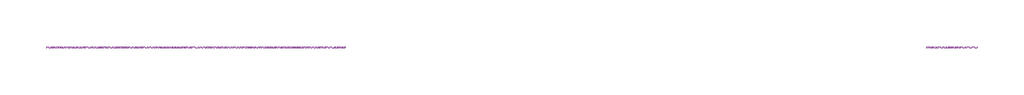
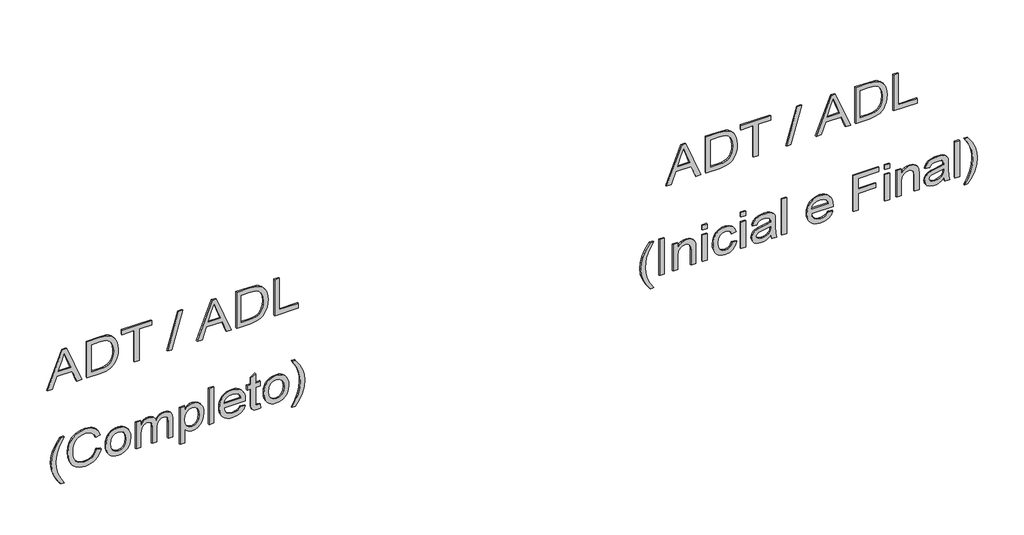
# One storey, part 3 of 5: 2 proxies.
"""IFC4 building model written with IfcOpenShell, lengths in millimetres."""

import ifcopenshell
import ifcopenshell.guid

model = None  # the IFC model being written
_history = None  # IfcOwnerHistory: only IFC2X3 demands one
_inside = {}  # id of a spatial element -> (the spatial element, [elements in it])
_under = {}  # id of a project, library or spatial element -> (it, [spatial elements below it])
_declared = {}  # id of a project -> (the project, [libraries it declares])
_typed = {}  # id of a type object -> (the type object, [elements of that type])
_made_of = {}  # id of a material, layer set ... -> (it, [elements and type objects made of it])


def new_model(schema):
    """Start an empty IFC model of exactly this schema.

    Asked for "IFC4X3", IfcOpenShell would pick the latest addendum, in which some entities
    have other attributes; the version numbers below select the first issue.
    IFC2X3 requires an IfcOwnerHistory on every rooted entity: one is made here for all.
    """
    global model, _history
    if schema == "IFC4X3":
        model = ifcopenshell.file(schema_version=(4, 3, 0, 0))
    else:
        model = ifcopenshell.file(schema=schema)
    _inside.clear()
    _under.clear()
    _declared.clear()
    _typed.clear()
    _made_of.clear()
    _history = None
    if model.schema == "IFC2X3":
        org = make("IfcOrganization", Name="unknown")
        user = make(
            "IfcPersonAndOrganization",
            ThePerson=make("IfcPerson", FamilyName="unknown"),
            TheOrganization=org,
        )
        app = make(
            "IfcApplication",
            ApplicationDeveloper=org,
            Version="unknown",
            ApplicationFullName="unknown",
            ApplicationIdentifier="unknown",
        )
        _history = make(
            "IfcOwnerHistory",
            OwningUser=user,
            OwningApplication=app,
            ChangeAction="ADDED",
            CreationDate=0,
        )
    return model


def make(cls, **values):
    """One entity of the class cls with the attributes given. An attribute that is None is left unset."""
    return model.create_entity(
        cls, **{name: value for name, value in values.items() if value is not None}
    )


def rooted(cls, **values):
    """An entity with a GlobalId (a new one), such as an element, a storey or a relation."""
    return make(cls, GlobalId=ifcopenshell.guid.new(), OwnerHistory=_history, **values)


def si_unit(unit_type, name, prefix=None):
    """IfcSIUnit, for example si_unit("LENGTHUNIT", "METRE", prefix="MILLI")."""
    return make("IfcSIUnit", UnitType=unit_type, Prefix=prefix, Name=name)


def assignment(units):
    """IfcUnitAssignment: the units of a project."""
    return None if units is None else make("IfcUnitAssignment", Units=units)


def point(xyz):
    """IfcCartesianPoint."""
    return None if xyz is None else make("IfcCartesianPoint", Coordinates=xyz)


def direction(xyz):
    """IfcDirection."""
    return None if xyz is None else make("IfcDirection", DirectionRatios=xyz)


def frame(location, z_axis=None, x_axis=None):
    """IfcAxis2Placement3D, a coordinate frame: its origin and axes. An axis left out is left unset."""
    return make(
        "IfcAxis2Placement3D",
        Location=point(location),
        Axis=direction(z_axis),
        RefDirection=direction(x_axis),
    )


def origin():
    """The frame at (0, 0, 0) with its axes left unset."""
    return frame((0.0, 0.0, 0.0))


def place(relative_to, where):
    """IfcLocalPlacement: puts the frame where relative to a parent placement (None: the world)."""
    return make(
        "IfcLocalPlacement", PlacementRelTo=relative_to, RelativePlacement=where
    )


def context(
    kind, dimensions, precision=None, world=None, true_north=None, identifier=None
):
    """IfcGeometricRepresentationContext, for example the 3D "Model" context."""
    return make(
        "IfcGeometricRepresentationContext",
        ContextIdentifier=identifier,
        ContextType=kind,
        CoordinateSpaceDimension=dimensions,
        Precision=precision,
        WorldCoordinateSystem=world,
        TrueNorth=true_north,
    )


def project(units=None, contexts=None):
    """IfcProject with its units and contexts."""
    return rooted(
        "IfcProject",
        Name="project",
        RepresentationContexts=contexts,
        UnitsInContext=assignment(units),
    )


def spatial(cls, under=None, at=None, **own):
    """A site, building, storey or space (cls), placed at a placement, below another one or the project."""
    s = rooted(cls, ObjectPlacement=at, **own)
    if under is not None:
        _under.setdefault(under.id(), (under, []))[1].append(s)
    return s


def polyline(points):
    """IfcPolyline through the points."""
    return make("IfcPolyline", Points=[point(p) for p in points])


def outline(outer, holes=None, kind="AREA"):
    """IfcArbitraryClosedProfileDef: a profile drawn as a closed curve; with holes, ...WithVoids."""
    if holes is None:
        return make("IfcArbitraryClosedProfileDef", ProfileType=kind, OuterCurve=outer)
    return make(
        "IfcArbitraryProfileDefWithVoids",
        ProfileType=kind,
        OuterCurve=outer,
        InnerCurves=holes,
    )


def extrude(swept, where, along, depth):
    """IfcExtrudedAreaSolid: the profile swept, set in the frame where, extruded along a direction by depth."""
    return make(
        "IfcExtrudedAreaSolid",
        SweptArea=swept,
        Position=where,
        ExtrudedDirection=direction(along),
        Depth=depth,
    )


def shape(context_of_items, identifier, shape_type, items):
    """IfcShapeRepresentation: the items that make up one representation, for example the "Body"."""
    return make(
        "IfcShapeRepresentation",
        ContextOfItems=context_of_items,
        RepresentationIdentifier=identifier,
        RepresentationType=shape_type,
        Items=items,
    )


def made_of(thing, what):
    """Note that an element or type object is made of a material, layer set ...; save() writes the relation."""
    if what is not None:
        _made_of.setdefault(what.id(), (what, []))[1].append(thing)
    return thing


def element(
    cls,
    number,
    at=None,
    inside=None,
    cuts=None,
    type_object=None,
    material=None,
    context=None,
    identifier="Body",
    shape_type=None,
    held_by="IfcProductDefinitionShape",
    body=None,
    shapes=None,
    **own,
):
    """One element of the class cls, such as IfcWall. Its Tag is "e" and its number.

    at: its placement. inside: the storey or other place that contains it. cuts: it is an
    opening in that element (IfcRelVoidsElement). A single representation is given by context,
    identifier, shape_type and body (its items); several are given by shapes. held_by: the class
    of the entity that holds the representations. save() writes the other relations.
    """
    e = rooted(cls, Tag="e%d" % number, ObjectPlacement=at, **own)
    if body is not None:
        shapes = [shape(context, identifier, shape_type, body)]
    if shapes is not None:
        e.Representation = make(held_by, Representations=shapes)
    if inside is not None:
        _inside.setdefault(inside.id(), (inside, []))[1].append(e)
    if cuts is not None:
        rooted(
            "IfcRelVoidsElement", RelatingBuildingElement=cuts, RelatedOpeningElement=e
        )
    if type_object is not None:
        _typed.setdefault(type_object.id(), (type_object, []))[1].append(e)
    return made_of(e, material)


def aggregate(whole, parts):
    """IfcRelAggregates: a whole, such as a stair, and the parts it consists of."""
    return rooted("IfcRelAggregates", RelatingObject=whole, RelatedObjects=parts)


def save(model, path):
    """Write the relations noted so far, then the file.

    IfcRelAggregates (storeys below a building ...), IfcRelContainedInSpatialStructure (elements
    in a storey), IfcRelDefinesByType, IfcRelAssociatesMaterial and IfcRelDeclares: one each for
    every whole, place, type object, material and project.
    """
    for whole, parts in _under.values():
        aggregate(whole, parts)
    for where, things in _inside.values():
        rooted(
            "IfcRelContainedInSpatialStructure",
            RelatedElements=things,
            RelatingStructure=where,
        )
    for kind, things in _typed.values():
        rooted("IfcRelDefinesByType", RelatedObjects=things, RelatingType=kind)
    for what, things in _made_of.values():
        rooted("IfcRelAssociatesMaterial", RelatedObjects=things, RelatingMaterial=what)
    for by, libraries in _declared.values():
        rooted("IfcRelDeclares", RelatingContext=by, RelatedDefinitions=libraries)
    model.write(path)


model = new_model("IFC4")

# Units and contexts
model_context = context("Model", 3, world=origin())
ifc_project = project(units=[si_unit("LENGTHUNIT", "METRE", prefix="MILLI")], contexts=[model_context])

# Site, building, storey
site = spatial("IfcSite", under=ifc_project)
building = spatial("IfcBuilding", under=site)
storey = spatial("IfcBuildingStorey", under=building, Name="03 - Marelli - Planta Baixa - Painéis Mistos", Elevation=24000.0)

# Proxies
placement = place(None, origin())
element("IfcBuildingElementProxy", 1, Name="300mm Arial", ObjectType="300mm Arial", at=placement, inside=storey, context=model_context, shape_type="SweptSolid", body=[
    extrude(outline(polyline([(30065.9244535, 12839.2832057), (30065.9244535, 12879.0880376), (30160.1022443, 12913.5217923), (30160.1022443, 13037.6451775), (30065.9244535, 13072.1525086), (30065.9244535, 13111.9573405), (30367.293384, 12991.6599281), (30367.293384, 12959.5806181), (30065.9244535, 12839.2832057)]), holes=[polyline([(30197.7733606, 12927.3541553), (30278.3395176, 12956.8582914), (30329.6222677, 12975.6202731), (30271.8647944, 12996.7366996), (30197.7733606, 13023.8863909), (30197.7733606, 12927.3541553)])]), frame((0.0, 8778.3159498, 0.0), z_axis=(0.0, 1.0, 0.0), x_axis=(0.0, 0.0, 1.0)), (0.0, 0.0, 1.0), 10.0),
    extrude(outline(polyline([(30065.9244535, 13152.2036308), (30065.9244535, 13261.1702778), (30071.0748015, 13309.6203365), (30077.4299629, 13329.1640675), (30086.1947515, 13345.6359839), (30098.0129606, 13359.9833817), (30113.5283837, 13373.1535571), (30133.1824793, 13384.5946872), (30157.4167057, 13393.7549488), (30185.8815751, 13399.7698195), (30218.2275995, 13401.7747763), (30256.303386, 13398.8133263), (30289.8910122, 13389.9289761), (30318.438655, 13375.0849376), (30341.3944915, 13354.2444225), (30354.5830611, 13333.9741246), (30362.9523764, 13309.9514303), (30367.293384, 13256.1670826), (30367.293384, 13152.2036308), (30065.9244535, 13152.2036308)]), holes=[polyline([(30103.5955698, 13189.8747471), (30329.6222677, 13189.8747471), (30329.6222677, 13255.504895), (30328.1139515, 13287.2531112), (30323.589003, 13308.9213607), (30311.0074387, 13330.2125312), (30290.1853178, 13348.0272168), (30259.8718414, 13360.0845492), (30218.8162107, 13364.10366), (30187.8313497, 13362.0527179), (30161.8312897, 13355.8998915), (30140.7240602, 13346.0682452), (30124.4176908, 13332.9808432), (30115.606917, 13320.8039492), (30109.0402234, 13305.0218116), (30104.9567332, 13284.1077202), (30103.5955698, 13256.5349646), (30103.5955698, 13189.8747471)])]), frame((0.0, 8778.3159498, 0.0), z_axis=(0.0, 1.0, 0.0), x_axis=(0.0, 0.0, 1.0)), (0.0, 0.0, 1.0), 10.0),
    extrude(outline(polyline([(30065.9244535, 13528.9147939), (30065.9244535, 13566.5859102), (30329.6222677, 13566.5859102), (30329.6222677, 13665.4725905), (30367.293384, 13665.4725905), (30367.293384, 13430.0281136), (30329.6222677, 13430.0281136), (30329.6222677, 13528.9147939), (30065.9244535, 13528.9147939)])), frame((0.0, 8778.3159498, 0.0), z_axis=(0.0, 1.0, 0.0), x_axis=(0.0, 0.0, 1.0)), (0.0, 0.0, 1.0), 10.0),
    extrude(outline(polyline([(30065.9244535, 13792.612608), (30065.9244535, 13826.6049044), (30367.293384, 13911.364916), (30367.293384, 13877.3726197), (30065.9244535, 13792.612608)])), frame((0.0, 8778.3159498, 0.0), z_axis=(0.0, 1.0, 0.0), x_axis=(0.0, 0.0, 1.0)), (0.0, 0.0, 1.0), 10.0),
    extrude(outline(polyline([(30065.9244535, 14025.9233693), (30065.9244535, 14065.7282012), (30160.1022443, 14100.161956), (30160.1022443, 14224.2853411), (30065.9244535, 14258.7926723), (30065.9244535, 14298.5975042), (30367.293384, 14178.3000917), (30367.293384, 14146.2207818), (30065.9244535, 14025.9233693)]), holes=[polyline([(30197.7733606, 14113.994319), (30278.3395176, 14143.498455), (30329.6222677, 14162.2604368), (30271.8647944, 14183.3768633), (30197.7733606, 14210.5265545), (30197.7733606, 14113.994319)])]), frame((0.0, 8778.3159498, 0.0), z_axis=(0.0, 1.0, 0.0), x_axis=(0.0, 0.0, 1.0)), (0.0, 0.0, 1.0), 10.0),
    extrude(outline(polyline([(30065.9244535, 14338.8437944), (30065.9244535, 14447.8104414), (30071.0748015, 14496.2605002), (30077.4299629, 14515.8042312), (30086.1947515, 14532.2761475), (30098.0129606, 14546.6235453), (30113.5283837, 14559.7937207), (30133.1824793, 14571.2348508), (30157.4167057, 14580.3951125), (30185.8815751, 14586.4099831), (30218.2275995, 14588.41494), (30256.303386, 14585.4534899), (30289.8910122, 14576.5691397), (30318.438655, 14561.7251012), (30341.3944915, 14540.8845862), (30354.5830611, 14520.6142883), (30362.9523764, 14496.591594), (30367.293384, 14442.8072463), (30367.293384, 14338.8437944), (30065.9244535, 14338.8437944)]), holes=[polyline([(30103.5955698, 14376.5149107), (30329.6222677, 14376.5149107), (30329.6222677, 14442.1450587), (30328.1139515, 14473.8932749), (30323.589003, 14495.5615244), (30311.0074387, 14516.8526949), (30290.1853178, 14534.6673805), (30259.8718414, 14546.7247129), (30218.8162107, 14550.7438237), (30187.8313497, 14548.6928815), (30161.8312897, 14542.5400552), (30140.7240602, 14532.7084088), (30124.4176908, 14519.6210069), (30115.606917, 14507.4441128), (30109.0402234, 14491.6619752), (30104.9567332, 14470.7478838), (30103.5955698, 14443.1751283), (30103.5955698, 14376.5149107)])]), frame((0.0, 8778.3159498, 0.0), z_axis=(0.0, 1.0, 0.0), x_axis=(0.0, 0.0, 1.0)), (0.0, 0.0, 1.0), 10.0),
    extrude(outline(polyline([(30065.9244535, 14640.2127249), (30065.9244535, 14828.5683064), (30103.5955698, 14828.5683064), (30103.5955698, 14677.8838412), (30367.293384, 14677.8838412), (30367.293384, 14640.2127249), (30065.9244535, 14640.2127249)])), frame((0.0, 8778.3159498, 0.0), z_axis=(0.0, 1.0, 0.0), x_axis=(0.0, 0.0, 1.0)), (0.0, 0.0, 1.0), 10.0),
    extrude(outline(polyline([(29249.3155348, 12945.0124911), (29249.3155348, 12973.2658283), (29297.5540614, 12944.4238799), (29345.8109821, 12923.8224882), (29394.0862969, 12911.4616532), (29442.3800058, 12907.3413748), (29480.2534572, 12909.7142137), (29517.9429677, 12916.8327303), (29575.7740173, 12938.0227332), (29635.4444769, 12973.2658283), (29635.4444769, 12945.0124911), (29584.934279, 12910.321219), (29534.2033518, 12886.0042191), (29489.4137189, 12873.7537486), (29442.600735, 12869.6702585), (29389.2210575, 12875.1333061), (29337.68079, 12891.522449), (29290.2791949, 12915.8210548), (29249.3155348, 12945.0124911)])), frame((0.0, 8778.3159498, 0.0), z_axis=(0.0, 1.0, 0.0), x_axis=(0.0, 0.0, 1.0)), (0.0, 0.0, 1.0), 10.0),
    extrude(outline(polyline([(29441.2027835, 13227.5458634), (29408.9395325, 13215.3597723), (29385.7261786, 13195.576918), (29371.7098746, 13169.3745229), (29367.0377732, 13137.9298094), (29370.4682728, 13110.9548621), (29380.7597717, 13085.9480835), (29397.9858461, 13065.0891743), (29422.2200725, 13050.5578355), (29452.3128197, 13042.0321703), (29487.1144565, 13039.1902819), (29515.5333406, 13041.5907119), (29543.1060961, 13048.792002), (29567.4966724, 13061.9161921), (29586.3690188, 13082.0853225), (29598.4539423, 13108.6647967), (29602.4822501, 13141.0200181), (29598.8494154, 13169.0894144), (29587.9509113, 13191.9348863), (29569.1061561, 13209.777163), (29541.6345681, 13222.8369739), (29550.6108888, 13260.5080902), (29588.4291579, 13243.8706269), (29603.751443, 13232.0685127), (29616.6824952, 13217.9441433), (29626.9510013, 13201.7642333), (29634.2856486, 13183.7954971), (29640.1533665, 13142.4915461), (29635.6192209, 13104.6364888), (29622.0167841, 13070.0923695), (29599.6771499, 13040.9653125), (29568.9314122, 13019.3614423), (29530.9843844, 13005.9797348), (29487.0408801, 13001.5191656), (29445.3782441, 13005.4647), (29406.4747231, 13017.3013032), (29373.3837376, 13036.6886843), (29349.1587083, 13063.2865526), (29334.3146698, 13097.9870218), (29329.3666569, 13141.6822057), (29331.0014325, 13164.1046133), (29335.9057594, 13184.7243992), (29344.0796375, 13203.5415632), (29355.5230668, 13220.5561055), (29370.0796975, 13235.4323337), (29387.5931797, 13247.8345554), (29408.0635135, 13257.7627708), (29431.4906988, 13265.2169797), (29441.2027835, 13227.5458634)])), frame((0.0, 8778.3159498, 0.0), z_axis=(0.0, 1.0, 0.0), x_axis=(0.0, 0.0, 1.0)), (0.0, 0.0, 1.0), 10.0),
    extrude(outline(polyline([(29444.7344506, 13302.888096), (29418.4124939, 13304.596448), (29395.3646869, 13309.7215041), (29375.5910296, 13318.2632642), (29359.0915221, 13330.2217283), (29346.0868936, 13344.9485044), (29336.7978732, 13361.7952005), (29331.224461, 13380.7618166), (29329.3666569, 13401.8483527), (29332.7419742, 13428.4370239), (29342.8679261, 13452.8735855), (29359.1007192, 13473.447386), (29380.7965599, 13488.4477744), (29409.767267, 13497.6080361), (29447.8246594, 13500.6614566), (29472.7049786, 13498.9347105), (29494.7388108, 13493.7544722), (29513.9261561, 13485.1207416), (29530.2670145, 13473.0335188), (29543.3199275, 13458.2239692), (29552.6434368, 13441.4232584), (29558.2375424, 13422.6313862), (29560.1022443, 13401.8483527), (29558.5709355, 13383.0219916), (29553.9770091, 13365.6855526), (29546.3204651, 13349.8390357), (29535.6013034, 13335.4824408), (29518.830483, 13321.222415), (29498.095734, 13311.0366822), (29473.3970566, 13304.9252426), (29444.7344506, 13302.888096)]), holes=[polyline([(29444.808027, 13340.5592123), (29478.8830968, 13344.918614), (29503.1173232, 13357.9968189), (29517.6026768, 13377.6785056), (29522.431128, 13401.8483527), (29517.5842827, 13425.7698795), (29503.0437468, 13445.4423692), (29479.0854319, 13458.6033475), (29445.9852494, 13462.9903403), (29411.1468245, 13458.6309387), (29386.535519, 13445.5527338), (29371.9122097, 13425.9078352), (29367.0377732, 13401.8483527), (29371.8846185, 13377.6785056), (29386.4251544, 13357.9968189), (29410.7145631, 13344.918614), (29444.808027, 13340.5592123)])]), frame((0.0, 8778.3159498, 0.0), z_axis=(0.0, 1.0, 0.0), x_axis=(0.0, 0.0, 1.0)), (0.0, 0.0, 1.0), 10.0),
    extrude(outline(polyline([(29334.0755465, 13543.0414625), (29334.0755465, 13580.7125788), (29445.6909438, 13580.7125788), (29471.6082304, 13582.1473186), (29490.6461236, 13586.4515379), (29504.368122, 13593.9563306), (29514.3377241, 13604.9927905), (29520.407777, 13618.365301), (29522.431128, 13632.8782457), (29519.3961015, 13649.9571673), (29510.2910222, 13661.4626767), (29495.0974958, 13668.0017792), (29473.7971282, 13670.18148), (29334.0755465, 13670.18148), (29334.0755465, 13707.8525963), (29459.008272, 13707.8525963), (29487.7214617, 13711.5406133), (29507.3479662, 13722.6046643), (29518.6603375, 13739.2421276), (29522.431128, 13759.6503812), (29520.9596, 13771.2110729), (29516.5450161, 13781.171478), (29509.7300021, 13788.915394), (29501.0571841, 13793.8266186), (29469.6032735, 13797.3214975), (29334.0755465, 13797.3214975), (29334.0755465, 13834.9926138), (29485.7900813, 13834.9926138), (29518.7615051, 13830.6791975), (29541.8920855, 13817.7389483), (29555.5497046, 13796.7972657), (29560.1022443, 13768.4795491), (29557.366122, 13748.9542122), (29549.1577549, 13731.3602558), (29535.4771432, 13715.6976799), (29516.3242869, 13701.9664844), (29534.7643719, 13693.7627159), (29548.5875379, 13681.2179399), (29557.2235677, 13664.4241268), (29560.1022443, 13643.4732472), (29557.27875, 13623.9203191), (29548.808267, 13606.6114712), (29535.702471, 13592.0433442), (29518.9730372, 13580.7125788), (29555.3933548, 13580.7125788), (29555.3933548, 13543.0414625), (29334.0755465, 13543.0414625)])), frame((0.0, 8778.3159498, 0.0), z_axis=(0.0, 1.0, 0.0), x_axis=(0.0, 0.0, 1.0)), (0.0, 0.0, 1.0), 10.0),
    extrude(outline(polyline([(29249.3155348, 13891.4992883), (29249.3155348, 13929.1704046), (29363.5061061, 13929.1704046), (29349.9956398, 13939.8113913), (29339.0419534, 13953.0459461), (29331.785481, 13968.5061869), (29329.3666569, 13985.8242319), (29332.9810975, 14010.2423993), (29343.8244193, 14033.4649502), (29361.4459669, 14053.4041544), (29385.3950848, 14067.9722814), (29414.2094421, 14076.8842227), (29446.4267078, 14079.8548698), (29476.7217901, 14077.2245136), (29504.4784866, 14069.3334448), (29527.9861461, 14056.2736339), (29545.5341173, 14038.1370516), (29556.4602125, 14015.8617968), (29560.1022443, 13990.3859686), (29557.4994792, 13971.2561049), (29549.6911838, 13955.2164499), (29536.6773583, 13941.4576633), (29518.4580024, 13929.1704046), (29555.3933548, 13929.1704046), (29555.3933548, 13891.4992883), (29249.3155348, 13891.4992883)]), holes=[polyline([(29442.968617, 13929.1704046), (29477.1356573, 13933.5206092), (29502.0872537, 13946.571223), (29517.3451594, 13965.2688254), (29522.431128, 13986.5599959), (29517.6486621, 14007.7683929), (29503.3012642, 14025.7762165), (29479.3521464, 14038.0818693), (29445.7645202, 14042.1837535), (29410.7237602, 14037.9807017), (29386.2412134, 14025.3715464), (29371.8386333, 14006.876279), (29367.0377732, 13985.0148915), (29371.6730864, 13963.5029918), (29385.5790258, 13945.467577), (29409.1970499, 13933.2446977), (29442.968617, 13929.1704046)])]), frame((0.0, 8778.3159498, 0.0), z_axis=(0.0, 1.0, 0.0), x_axis=(0.0, 0.0, 1.0)), (0.0, 0.0, 1.0), 10.0),
    extrude(outline(polyline([(14159.905992, 8778.3159498), (14122.2348757, 8778.3159498), (14122.2348757, 8788.3159498), (14159.905992, 8788.3159498), (14159.905992, 8778.3159498)])), frame((0.0, 0.0, 29334.0755465), z_axis=(0.0, 0.0, 1.0), x_axis=(1.0, 0.0, 0.0)), (0.0, 0.0, 1.0), 301.3689304),
    extrude(outline(polyline([(29400.0, 14371.3645628), (29385.1191733, 14360.8063496), (29374.9104479, 14347.0843511), (29369.0059419, 14330.1985676), (29367.0377732, 14310.1489988), (29371.2868103, 14283.4867512), (29384.0339214, 14261.6253637), (29404.7640718, 14246.4778225), (29432.9622268, 14239.9571141), (29432.9622268, 14409.2564083), (29443.1157698, 14409.4771375), (29469.3687487, 14407.6906106), (29492.5039277, 14402.3310298), (29512.5213067, 14393.3983951), (29529.4208859, 14380.8927065), (29542.8439802, 14365.5727207), (29552.4319047, 14348.1971942), (29558.1846594, 14328.766127), (29560.1022443, 14307.2795193), (29558.1800609, 14285.0778408), (29552.4135106, 14265.0466662), (29542.8025935, 14247.1859953), (29529.3473095, 14231.4958282), (29512.4109422, 14218.7165274), (29492.3567749, 14209.5884554), (29469.1848077, 14204.1116122), (29442.8950406, 14202.2859978), (29417.467497, 14204.0932181), (29395.0427901, 14209.514879), (29375.62092, 14218.5509805), (29359.2018867, 14231.2015227), (29346.1489737, 14246.9330765), (29336.8254644, 14265.2122131), (29331.2313588, 14286.0389326), (29329.3666569, 14309.4132348), (29333.6892704, 14345.0701972), (29346.6571107, 14373.7557958), (29367.4608375, 14394.991784), (29395.2911105, 14408.2999151), (29400.0, 14371.3645628)]), holes=[polyline([(29470.6333431, 14239.9571141), (29491.8693312, 14246.1467287), (29508.3412476, 14260.7424469), (29518.9086579, 14281.7393117), (29522.431128, 14307.1323665), (29518.0165441, 14334.7603043), (29504.7727922, 14356.7228594), (29490.535759, 14366.7108556), (29470.6333431, 14371.8060212), (29470.6333431, 14239.9571141)])]), frame((0.0, 8778.3159498, 0.0), z_axis=(0.0, 1.0, 0.0), x_axis=(0.0, 0.0, 1.0)), (0.0, 0.0, 1.0), 10.0),
    extrude(outline(polyline([(29365.4926689, 14527.199376), (29367.0377732, 14510.791839), (29369.576159, 14497.9527574), (29376.4555523, 14491.5148224), (29395.8797217, 14489.5282597), (29517.7222385, 14489.5282597), (29517.7222385, 14527.199376), (29555.3933548, 14527.199376), (29555.3933548, 14489.5282597), (29631.3241986, 14489.5282597), (29609.1777025, 14451.8571434), (29555.3933548, 14451.8571434), (29555.3933548, 14423.6038061), (29517.7222385, 14423.6038061), (29517.7222385, 14451.8571434), (29394.7760757, 14451.8571434), (29367.7919313, 14452.9975775), (29352.0281878, 14456.4188801), (29342.849532, 14462.6360858), (29335.6206508, 14472.1642295), (29330.9301554, 14485.6471046), (29329.3666569, 14503.7285047), (29332.9719005, 14531.9082655), (29365.4926689, 14527.199376)])), frame((0.0, 8778.3159498, 0.0), z_axis=(0.0, 1.0, 0.0), x_axis=(0.0, 0.0, 1.0)), (0.0, 0.0, 1.0), 10.0),
    extrude(outline(polyline([(29444.7344506, 14555.4527132), (29418.4124939, 14557.1610652), (29395.3646869, 14562.2861213), (29375.5910296, 14570.8278813), (29359.0915221, 14582.7863454), (29346.0868936, 14597.5131216), (29336.7978732, 14614.3598177), (29331.224461, 14633.3264338), (29329.3666569, 14654.4129699), (29332.7419742, 14681.0016411), (29342.8679261, 14705.4382026), (29359.1007192, 14726.0120032), (29380.7965599, 14741.0123916), (29409.767267, 14750.1726532), (29447.8246594, 14753.2260738), (29472.7049786, 14751.4993277), (29494.7388108, 14746.3190893), (29513.9261561, 14737.6853588), (29530.2670145, 14725.598136), (29543.3199275, 14710.7885864), (29552.6434368, 14693.9878755), (29558.2375424, 14675.1960034), (29560.1022443, 14654.4129699), (29558.5709355, 14635.5866088), (29553.9770091, 14618.2501698), (29546.3204651, 14602.4036528), (29535.6013034, 14588.047058), (29518.830483, 14573.7870321), (29498.095734, 14563.6012994), (29473.3970566, 14557.4898597), (29444.7344506, 14555.4527132)]), holes=[polyline([(29444.808027, 14593.1238295), (29478.8830968, 14597.4832312), (29503.1173232, 14610.5614361), (29517.6026768, 14630.2431228), (29522.431128, 14654.4129699), (29517.5842827, 14678.3344966), (29503.0437468, 14698.0069863), (29479.0854319, 14711.1679647), (29445.9852494, 14715.5549575), (29411.1468245, 14711.1955559), (29386.535519, 14698.1173509), (29371.9122097, 14678.4724524), (29367.0377732, 14654.4129699), (29371.8846185, 14630.2431228), (29386.4251544, 14610.5614361), (29410.7145631, 14597.4832312), (29444.808027, 14593.1238295)])]), frame((0.0, 8778.3159498, 0.0), z_axis=(0.0, 1.0, 0.0), x_axis=(0.0, 0.0, 1.0)), (0.0, 0.0, 1.0), 10.0),
    extrude(outline(polyline([(29249.3155348, 14805.0238587), (29290.2791949, 14834.0773393), (29337.68079, 14858.4035362), (29389.2210575, 14874.8754526), (29442.600735, 14880.3660913), (29489.4137189, 14876.2826012), (29534.2033518, 14864.0321308), (29584.934279, 14839.7151309), (29635.4444769, 14805.0238587), (29635.4444769, 14776.7705215), (29575.1854061, 14812.2343458), (29546.8400984, 14824.2089048), (29517.2807801, 14833.2036196), (29479.9775458, 14840.3221362), (29442.3800058, 14842.694975), (29394.0862969, 14838.5746967), (29345.8109821, 14826.2138617), (29297.5540614, 14805.6124699), (29249.3155348, 14776.7705215), (29249.3155348, 14805.0238587)])), frame((0.0, 8778.3159498, 0.0), z_axis=(0.0, 1.0, 0.0), x_axis=(0.0, 0.0, 1.0)), (0.0, 0.0, 1.0), 10.0),
])
element("IfcBuildingElementProxy", 2, Name="300mm Arial", ObjectType="300mm Arial", at=placement, inside=storey, context=model_context, shape_type="SweptSolid", body=[
    extrude(outline(polyline([(30065.9244535, 17745.1054149), (30065.9244535, 17784.9102468), (30160.1022443, 17819.3440016), (30160.1022443, 17943.4673867), (30065.9244535, 17977.9747179), (30065.9244535, 18017.7795498), (30367.293384, 17897.4821373), (30367.293384, 17865.4028274), (30065.9244535, 17745.1054149)]), holes=[polyline([(30197.7733606, 17833.1763646), (30278.3395176, 17862.6805006), (30329.6222677, 17881.4424823), (30271.8647944, 17902.5589089), (30197.7733606, 17929.7086001), (30197.7733606, 17833.1763646)])]), frame((0.0, 8778.3159498, 0.0), z_axis=(0.0, 1.0, 0.0), x_axis=(0.0, 0.0, 1.0)), (0.0, 0.0, 1.0), 10.0),
    extrude(outline(polyline([(30065.9244535, 18058.02584), (30065.9244535, 18166.992487), (30071.0748015, 18215.4425458), (30077.4299629, 18234.9862768), (30086.1947515, 18251.4581931), (30098.0129606, 18265.8055909), (30113.5283837, 18278.9757663), (30133.1824793, 18290.4168964), (30157.4167057, 18299.5771581), (30185.8815751, 18305.5920287), (30218.2275995, 18307.5969856), (30256.303386, 18304.6355355), (30289.8910122, 18295.7511853), (30318.438655, 18280.9071468), (30341.3944915, 18260.0666318), (30354.5830611, 18239.7963339), (30362.9523764, 18215.7736396), (30367.293384, 18161.9892919), (30367.293384, 18058.02584), (30065.9244535, 18058.02584)]), holes=[polyline([(30103.5955698, 18095.6969563), (30329.6222677, 18095.6969563), (30329.6222677, 18161.3271043), (30328.1139515, 18193.0753205), (30323.589003, 18214.74357), (30311.0074387, 18236.0347404), (30290.1853178, 18253.8494261), (30259.8718414, 18265.9067585), (30218.8162107, 18269.9258693), (30187.8313497, 18267.8749271), (30161.8312897, 18261.7221008), (30140.7240602, 18251.8904544), (30124.4176908, 18238.8030525), (30115.606917, 18226.6261584), (30109.0402234, 18210.8440208), (30104.9567332, 18189.9299294), (30103.5955698, 18162.3571739), (30103.5955698, 18095.6969563)])]), frame((0.0, 8778.3159498, 0.0), z_axis=(0.0, 1.0, 0.0), x_axis=(0.0, 0.0, 1.0)), (0.0, 0.0, 1.0), 10.0),
    extrude(outline(polyline([(30065.9244535, 18434.7370031), (30065.9244535, 18472.4081194), (30329.6222677, 18472.4081194), (30329.6222677, 18571.2947997), (30367.293384, 18571.2947997), (30367.293384, 18335.8503228), (30329.6222677, 18335.8503228), (30329.6222677, 18434.7370031), (30065.9244535, 18434.7370031)])), frame((0.0, 8778.3159498, 0.0), z_axis=(0.0, 1.0, 0.0), x_axis=(0.0, 0.0, 1.0)), (0.0, 0.0, 1.0), 10.0),
    extrude(outline(polyline([(30065.9244535, 18698.4348172), (30065.9244535, 18732.4271136), (30367.293384, 18817.1871253), (30367.293384, 18783.1948289), (30065.9244535, 18698.4348172)])), frame((0.0, 8778.3159498, 0.0), z_axis=(0.0, 1.0, 0.0), x_axis=(0.0, 0.0, 1.0)), (0.0, 0.0, 1.0), 10.0),
    extrude(outline(polyline([(30065.9244535, 18931.7455786), (30065.9244535, 18971.5504105), (30160.1022443, 19005.9841652), (30160.1022443, 19130.1075504), (30065.9244535, 19164.6148815), (30065.9244535, 19204.4197134), (30367.293384, 19084.122301), (30367.293384, 19052.042991), (30065.9244535, 18931.7455786)]), holes=[polyline([(30197.7733606, 19019.8165282), (30278.3395176, 19049.3206642), (30329.6222677, 19068.082646), (30271.8647944, 19089.1990725), (30197.7733606, 19116.3487638), (30197.7733606, 19019.8165282)])]), frame((0.0, 8778.3159498, 0.0), z_axis=(0.0, 1.0, 0.0), x_axis=(0.0, 0.0, 1.0)), (0.0, 0.0, 1.0), 10.0),
    extrude(outline(polyline([(30065.9244535, 19244.6660037), (30065.9244535, 19353.6326506), (30071.0748015, 19402.0827094), (30077.4299629, 19421.6264404), (30086.1947515, 19438.0983567), (30098.0129606, 19452.4457546), (30113.5283837, 19465.61593), (30133.1824793, 19477.05706), (30157.4167057, 19486.2173217), (30185.8815751, 19492.2321923), (30218.2275995, 19494.2371492), (30256.303386, 19491.2756991), (30289.8910122, 19482.391349), (30318.438655, 19467.5473105), (30341.3944915, 19446.7067954), (30354.5830611, 19426.4364975), (30362.9523764, 19402.4138032), (30367.293384, 19348.6294555), (30367.293384, 19244.6660037), (30065.9244535, 19244.6660037)]), holes=[polyline([(30103.5955698, 19282.33712), (30329.6222677, 19282.33712), (30329.6222677, 19347.9672679), (30328.1139515, 19379.7154841), (30323.589003, 19401.3837336), (30311.0074387, 19422.6749041), (30290.1853178, 19440.4895897), (30259.8718414, 19452.5469221), (30218.8162107, 19456.5660329), (30187.8313497, 19454.5150908), (30161.8312897, 19448.3622644), (30140.7240602, 19438.5306181), (30124.4176908, 19425.4432161), (30115.606917, 19413.2663221), (30109.0402234, 19397.4841845), (30104.9567332, 19376.570093), (30103.5955698, 19348.9973375), (30103.5955698, 19282.33712)])]), frame((0.0, 8778.3159498, 0.0), z_axis=(0.0, 1.0, 0.0), x_axis=(0.0, 0.0, 1.0)), (0.0, 0.0, 1.0), 10.0),
    extrude(outline(polyline([(30065.9244535, 19546.0349341), (30065.9244535, 19734.3905157), (30103.5955698, 19734.3905157), (30103.5955698, 19583.7060504), (30367.293384, 19583.7060504), (30367.293384, 19546.0349341), (30065.9244535, 19546.0349341)])), frame((0.0, 8778.3159498, 0.0), z_axis=(0.0, 1.0, 0.0), x_axis=(0.0, 0.0, 1.0)), (0.0, 0.0, 1.0), 10.0),
    extrude(outline(polyline([(29249.3155348, 17615.3902234), (29249.3155348, 17643.6435607), (29297.5540614, 17614.8016122), (29345.8109821, 17594.2002205), (29394.0862969, 17581.8393855), (29442.3800058, 17577.7191071), (29480.2534572, 17580.091946), (29517.9429677, 17587.2104626), (29575.7740173, 17608.4004655), (29635.4444769, 17643.6435607), (29635.4444769, 17615.3902234), (29584.934279, 17580.6989513), (29534.2033518, 17556.3819514), (29489.4137189, 17544.131481), (29442.600735, 17540.0479908), (29389.2210575, 17545.5110385), (29337.68079, 17561.9001813), (29290.2791949, 17586.1987871), (29249.3155348, 17615.3902234)])), frame((0.0, 8778.3159498, 0.0), z_axis=(0.0, 1.0, 0.0), x_axis=(0.0, 0.0, 1.0)), (0.0, 0.0, 1.0), 10.0),
    extrude(outline(polyline([(17728.4035724, 8778.3159498), (17690.732456, 8778.3159498), (17690.732456, 8788.3159498), (17728.4035724, 8788.3159498), (17728.4035724, 8778.3159498)])), frame((0.0, 0.0, 29334.0755465), z_axis=(0.0, 0.0, 1.0), x_axis=(1.0, 0.0, 0.0)), (0.0, 0.0, 1.0), 301.3689304),
    extrude(outline(polyline([(29334.0755465, 17799.0369154), (29334.0755465, 17836.7080317), (29451.5034793, 17836.7080317), (29486.2131456, 17841.003054), (29498.5877762, 17846.3718319), (29507.6422718, 17853.8881209), (29518.7339139, 17872.6960879), (29522.431128, 17894.7598106), (29520.7848561, 17908.6565529), (29515.8460403, 17920.6219148), (29508.1481095, 17929.9569205), (29498.2244927, 17935.962594), (29464.8943839, 17940.3036016), (29334.0755465, 17940.3036016), (29334.0755465, 17977.9747179), (29469.9711555, 17977.9747179), (29506.391473, 17975.9881551), (29534.0929872, 17964.6941779), (29544.6328064, 17954.5958171), (29552.9285454, 17940.4139662), (29558.3088196, 17923.4086209), (29560.1022443, 17904.8397772), (29557.8765582, 17883.8613065), (29551.1995, 17865.513192), (29540.0710697, 17849.7954337), (29524.4912672, 17836.7080317), (29555.3933548, 17836.7080317), (29555.3933548, 17799.0369154), (29334.0755465, 17799.0369154)])), frame((0.0, 8778.3159498, 0.0), z_axis=(0.0, 1.0, 0.0), x_axis=(0.0, 0.0, 1.0)), (0.0, 0.0, 1.0), 10.0),
    extrude(outline(polyline([(18067.4436191, 8778.3159498), (18029.7725028, 8778.3159498), (18029.7725028, 8788.3159498), (18067.4436191, 8788.3159498), (18067.4436191, 8778.3159498)])), frame((0.0, 0.0, 29597.7733606), z_axis=(0.0, 0.0, 1.0), x_axis=(1.0, 0.0, 0.0)), (0.0, 0.0, 1.0), 37.6711163),
    extrude(outline(polyline([(18067.4436191, 8778.3159498), (18029.7725028, 8778.3159498), (18029.7725028, 8788.3159498), (18067.4436191, 8788.3159498), (18067.4436191, 8778.3159498)])), frame((0.0, 0.0, 29334.0755465), z_axis=(0.0, 0.0, 1.0), x_axis=(1.0, 0.0, 0.0)), (0.0, 0.0, 1.0), 221.3178083),
    extrude(outline(polyline([(29414.1266686, 18265.2169797), (29393.2493654, 18258.7882419), (29378.5892679, 18247.1539738), (29369.9256469, 18231.160304), (29367.0377732, 18211.6533612), (29371.6638893, 18187.6214699), (29385.5422376, 18168.647956), (29409.6477053, 18156.3147121), (29444.9551798, 18152.2036308), (29479.7936048, 18156.4066826), (29503.816299, 18169.015838), (29517.7774208, 18188.3388398), (29522.431128, 18212.6834308), (29520.0674862, 18229.1737412), (29512.9765607, 18243.0336954), (29501.1951398, 18253.6746821), (29484.7600117, 18260.5080902), (29489.4689012, 18298.1792065), (29519.4512838, 18287.9244959), (29541.7081445, 18269.6683519), (29555.5037194, 18244.2201148), (29560.1022443, 18212.3891252), (29556.7545181, 18185.7452717), (29546.7113397, 18161.1431633), (29529.9635118, 18140.5785598), (29506.5018376, 18126.0472209), (29477.448357, 18117.4111911), (29443.9251102, 18114.5325145), (29417.8675687, 18116.2178739), (29395.024396, 18121.2739521), (29375.3955923, 18129.700749), (29358.9811575, 18141.4982647), (29346.0248135, 18156.0732895), (29336.7702821, 18172.8326137), (29331.2175632, 18191.7762372), (29329.3666569, 18212.90416), (29334.6733547, 18245.535293), (29350.593448, 18272.648196), (29375.9129264, 18292.3850651), (29409.4177791, 18302.888096), (29414.1266686, 18265.2169797)])), frame((0.0, 8778.3159498, 0.0), z_axis=(0.0, 1.0, 0.0), x_axis=(0.0, 0.0, 1.0)), (0.0, 0.0, 1.0), 10.0),
    extrude(outline(polyline([(18373.5214391, 8778.3159498), (18335.8503228, 8778.3159498), (18335.8503228, 8788.3159498), (18373.5214391, 8788.3159498), (18373.5214391, 8778.3159498)])), frame((0.0, 0.0, 29597.7733606), z_axis=(0.0, 0.0, 1.0), x_axis=(1.0, 0.0, 0.0)), (0.0, 0.0, 1.0), 37.6711163),
    extrude(outline(polyline([(18373.5214391, 8778.3159498), (18335.8503228, 8778.3159498), (18335.8503228, 8788.3159498), (18373.5214391, 8788.3159498), (18373.5214391, 8778.3159498)])), frame((0.0, 0.0, 29334.0755465), z_axis=(0.0, 0.0, 1.0), x_axis=(1.0, 0.0, 0.0)), (0.0, 0.0, 1.0), 221.3178083),
    extrude(outline(polyline([(29362.3288837, 18571.2947997), (29334.0755465, 18580.7125788), (29334.0755465, 18618.3836951), (29365.7501862, 18610.8789024), (29431.1963932, 18608.965916), (29478.0645594, 18608.965916), (29511.0267861, 18607.126506), (29525.1442577, 18602.5831634), (29536.5945848, 18595.5750114), (29545.856014, 18585.0076011), (29553.406792, 18569.7864835), (29558.4283812, 18549.598959), (29560.1022443, 18524.1323279), (29558.207652, 18497.5804449), (29552.5238752, 18474.4314704), (29543.3452194, 18455.5039417), (29530.9659903, 18441.6163964), (29514.7791825, 18431.8583265), (29494.1777908, 18425.319224), (29489.4689012, 18462.9903403), (29505.1314772, 18470.4767389), (29515.1838527, 18481.1637109), (29520.6193092, 18496.8354839), (29522.431128, 18519.2762856), (29519.7088012, 18543.5197091), (29511.5418209, 18560.9205274), (29500.5421493, 18568.7012316), (29483.7299421, 18571.2947997), (29475.3422326, 18571.0740705), (29468.3524747, 18544.2554731), (29462.3927864, 18505.7382282), (29456.7274037, 18473.1438834), (29444.3665686, 18446.7667443), (29434.8752131, 18436.1625458), (29422.7351073, 18427.8208216), (29408.5532564, 18422.4129563), (29392.9366657, 18420.6103345), (29367.6079903, 18425.3836034), (29347.2457219, 18439.70341), (29333.8364232, 18462.925961), (29329.3666569, 18494.4074627), (29331.224461, 18515.2755689), (29336.7978732, 18534.7641176), (29346.896234, 18553.2961731), (29362.3288837, 18571.2947997)]), holes=[polyline([(29437.6711163, 18571.2947997), (29427.0025384, 18571.0740705), (29410.0799667, 18569.5841484), (29397.8662844, 18565.1143822), (29386.0112871, 18555.0344155), (29376.0508821, 18540.5398649), (29369.2910505, 18522.6607999), (29367.0377732, 18502.4272902), (29369.0795183, 18483.3434117), (29375.2047535, 18469.5018516), (29384.3834093, 18461.086551), (29395.5854161, 18458.2814508), (29410.0799667, 18463.4317987), (29420.0127805, 18478.1102903), (29426.1196217, 18510.5206941), (29437.6711163, 18571.2947997)])]), frame((0.0, 8778.3159498, 0.0), z_axis=(0.0, 1.0, 0.0), x_axis=(0.0, 0.0, 1.0)), (0.0, 0.0, 1.0), 10.0),
    extrude(outline(polyline([(18698.4348172, 8778.3159498), (18660.7637009, 8778.3159498), (18660.7637009, 8788.3159498), (18698.4348172, 8788.3159498), (18698.4348172, 8778.3159498)])), frame((0.0, 0.0, 29334.0755465), z_axis=(0.0, 0.0, 1.0), x_axis=(1.0, 0.0, 0.0)), (0.0, 0.0, 1.0), 301.3689304),
    extrude(outline(polyline([(29400.0, 19027.6156265), (29385.1191733, 19017.0574133), (29374.9104479, 19003.3354148), (29369.0059419, 18986.4496313), (29367.0377732, 18966.4000625), (29371.2868103, 18939.7378149), (29384.0339214, 18917.8764274), (29404.7640718, 18902.7288862), (29432.9622268, 18896.2081778), (29432.9622268, 19065.507472), (29443.1157698, 19065.7282012), (29469.3687487, 19063.9416743), (29492.5039277, 19058.5820935), (29512.5213067, 19049.6494588), (29529.4208859, 19037.1437702), (29542.8439802, 19021.8237844), (29552.4319047, 19004.4482579), (29558.1846594, 18985.0171907), (29560.1022443, 18963.530583), (29558.1800609, 18941.3289046), (29552.4135106, 18921.2977299), (29542.8025935, 18903.437059), (29529.3473095, 18887.746892), (29512.4109422, 18874.9675911), (29492.3567749, 18865.8395191), (29469.1848077, 18860.3626759), (29442.8950406, 18858.5370615), (29417.467497, 18860.3442818), (29395.0427901, 18865.7659427), (29375.62092, 18874.8020442), (29359.2018867, 18887.4525864), (29346.1489737, 18903.1841402), (29336.8254644, 18921.4632768), (29331.2313588, 18942.2899963), (29329.3666569, 18965.6642985), (29333.6892704, 19001.3212609), (29346.6571107, 19030.0068595), (29367.4608375, 19051.2428477), (29395.2911105, 19064.5509788), (29400.0, 19027.6156265)]), holes=[polyline([(29470.6333431, 18896.2081778), (29491.8693312, 18902.3977924), (29508.3412476, 18916.9935106), (29518.9086579, 18937.9903754), (29522.431128, 18963.3834302), (29518.0165441, 18991.011368), (29504.7727922, 19012.9739231), (29490.535759, 19022.9619193), (29470.6333431, 19028.0570849), (29470.6333431, 18896.2081778)])]), frame((0.0, 8778.3159498, 0.0), z_axis=(0.0, 1.0, 0.0), x_axis=(0.0, 0.0, 1.0)), (0.0, 0.0, 1.0), 10.0),
    extrude(outline(polyline([(29334.0755465, 19225.8304455), (29334.0755465, 19263.5015618), (29470.6333431, 19263.5015618), (29470.6333431, 19404.768248), (29508.3044594, 19404.768248), (29508.3044594, 19263.5015618), (29597.7733606, 19263.5015618), (29597.7733606, 19428.3126957), (29635.4444769, 19428.3126957), (29635.4444769, 19225.8304455), (29334.0755465, 19225.8304455)])), frame((0.0, 8778.3159498, 0.0), z_axis=(0.0, 1.0, 0.0), x_axis=(0.0, 0.0, 1.0)), (0.0, 0.0, 1.0), 10.0),
    extrude(outline(polyline([(19513.0727074, 8778.3159498), (19475.4015911, 8778.3159498), (19475.4015911, 8788.3159498), (19513.0727074, 8788.3159498), (19513.0727074, 8778.3159498)])), frame((0.0, 0.0, 29597.7733606), z_axis=(0.0, 0.0, 1.0), x_axis=(1.0, 0.0, 0.0)), (0.0, 0.0, 1.0), 37.6711163),
    extrude(outline(polyline([(19513.0727074, 8778.3159498), (19475.4015911, 8778.3159498), (19475.4015911, 8788.3159498), (19513.0727074, 8788.3159498), (19513.0727074, 8778.3159498)])), frame((0.0, 0.0, 29334.0755465), z_axis=(0.0, 0.0, 1.0), x_axis=(1.0, 0.0, 0.0)), (0.0, 0.0, 1.0), 221.3178083),
    extrude(outline(polyline([(29334.0755465, 19569.5793818), (29334.0755465, 19607.2504981), (29451.5034793, 19607.2504981), (29486.2131456, 19611.5455204), (29498.5877762, 19616.9142983), (29507.6422718, 19624.4305873), (29518.7339139, 19643.2385543), (29522.431128, 19665.302277), (29520.7848561, 19679.1990193), (29515.8460403, 19691.1643812), (29508.1481095, 19700.4993868), (29498.2244927, 19706.5050604), (29464.8943839, 19710.846068), (29334.0755465, 19710.846068), (29334.0755465, 19748.5171843), (29469.9711555, 19748.5171843), (29506.391473, 19746.5306215), (29534.0929872, 19735.2366442), (29544.6328064, 19725.1382835), (29552.9285454, 19710.9564326), (29558.3088196, 19693.9510873), (29560.1022443, 19675.3822436), (29557.8765582, 19654.4037729), (29551.1995, 19636.0556583), (29540.0710697, 19620.3379001), (29524.4912672, 19607.2504981), (29555.3933548, 19607.2504981), (29555.3933548, 19569.5793818), (29334.0755465, 19569.5793818)])), frame((0.0, 8778.3159498, 0.0), z_axis=(0.0, 1.0, 0.0), x_axis=(0.0, 0.0, 1.0)), (0.0, 0.0, 1.0), 10.0),
    extrude(outline(polyline([(29362.3288837, 19941.5816553), (29334.0755465, 19950.9994344), (29334.0755465, 19988.6705507), (29365.7501862, 19981.165758), (29431.1963932, 19979.2527716), (29478.0645594, 19979.2527716), (29511.0267861, 19977.4133617), (29525.1442577, 19972.870019), (29536.5945848, 19965.861867), (29545.856014, 19955.2944567), (29553.406792, 19940.0733392), (29558.4283812, 19919.8858147), (29560.1022443, 19894.4191836), (29558.207652, 19867.8673006), (29552.5238752, 19844.718326), (29543.3452194, 19825.7907974), (29530.9659903, 19811.903252), (29514.7791825, 19802.1451821), (29494.1777908, 19795.6060797), (29489.4689012, 19833.277196), (29505.1314772, 19840.7635946), (29515.1838527, 19851.4505665), (29520.6193092, 19867.1223395), (29522.431128, 19889.5631412), (29519.7088012, 19913.8065647), (29511.5418209, 19931.2073831), (29500.5421493, 19938.9880873), (29483.7299421, 19941.5816553), (29475.3422326, 19941.3609261), (29468.3524747, 19914.5423287), (29462.3927864, 19876.0250838), (29456.7274037, 19843.430739), (29444.3665686, 19817.0536), (29434.8752131, 19806.4494015), (29422.7351073, 19798.1076772), (29408.5532564, 19792.6998119), (29392.9366657, 19790.8971901), (29367.6079903, 19795.670459), (29347.2457219, 19809.9902657), (29333.8364232, 19833.2128166), (29329.3666569, 19864.6943183), (29331.224461, 19885.5624245), (29336.7978732, 19905.0509732), (29346.896234, 19923.5830287), (29362.3288837, 19941.5816553)]), holes=[polyline([(29437.6711163, 19941.5816553), (29427.0025384, 19941.3609261), (29410.0799667, 19939.8710041), (29397.8662844, 19935.4012378), (29386.0112871, 19925.3212712), (29376.0508821, 19910.8267205), (29369.2910505, 19892.9476556), (29367.0377732, 19872.7141458), (29369.0795183, 19853.6302673), (29375.2047535, 19839.7887073), (29384.3834093, 19831.3734066), (29395.5854161, 19828.5683064), (29410.0799667, 19833.7186544), (29420.0127805, 19848.397146), (29426.1196217, 19880.8075497), (29437.6711163, 19941.5816553)])]), frame((0.0, 8778.3159498, 0.0), z_axis=(0.0, 1.0, 0.0), x_axis=(0.0, 0.0, 1.0)), (0.0, 0.0, 1.0), 10.0),
    extrude(outline(polyline([(20068.7216729, 8778.3159498), (20031.0505566, 8778.3159498), (20031.0505566, 8788.3159498), (20068.7216729, 8788.3159498), (20068.7216729, 8778.3159498)])), frame((0.0, 0.0, 29334.0755465), z_axis=(0.0, 0.0, 1.0), x_axis=(1.0, 0.0, 0.0)), (0.0, 0.0, 1.0), 301.3689304),
    extrude(outline(polyline([(29249.3155348, 20134.6461264), (29290.2791949, 20163.699607), (29337.68079, 20188.0258039), (29389.2210575, 20204.4977202), (29442.600735, 20209.988359), (29489.4137189, 20205.9048689), (29534.2033518, 20193.6543984), (29584.934279, 20169.3373986), (29635.4444769, 20134.6461264), (29635.4444769, 20106.3927892), (29575.1854061, 20141.8566135), (29546.8400984, 20153.8311725), (29517.2807801, 20162.8258872), (29479.9775458, 20169.9444038), (29442.3800058, 20172.3172427), (29394.0862969, 20168.1969644), (29345.8109821, 20155.8361293), (29297.5540614, 20135.2347376), (29249.3155348, 20106.3927892), (29249.3155348, 20134.6461264)])), frame((0.0, 8778.3159498, 0.0), z_axis=(0.0, 1.0, 0.0), x_axis=(0.0, 0.0, 1.0)), (0.0, 0.0, 1.0), 10.0),
])

save(model, "model.ifc")
